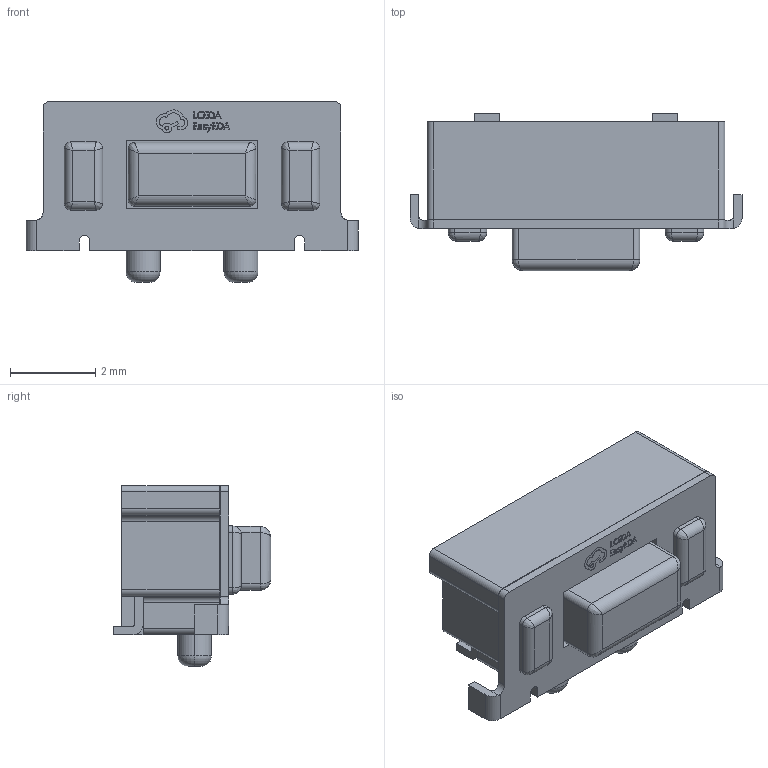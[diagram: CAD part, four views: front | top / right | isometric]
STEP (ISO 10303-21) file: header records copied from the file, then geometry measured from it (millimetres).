
FILE_DESCRIPTION (( 'STEP AP214' ), '1' );
FILE_NAME ('KEY-SMD_L7.6-W3.5-H3.5-P4.2.step', '2022-07-02T15:25:44', ( '' ), ( '' ), 'SwSTEP 2.0', 'SolidWorks 2020', '' );
FILE_SCHEMA (( 'AUTOMOTIVE_DESIGN' ));
Length unit declared in the file: millimetre
Products named in the file (1): KEY-SMD_L7.6-W3.5-H3.5-P4.2
Bounding box: 7.8 x 3.7 x 4.25 mm (x, y, z)
Volume: 57.9 mm3; surface area: 156.9 mm2
Topology: 2 solids, 2 shells, 439 faces, 1169 edges, 756 vertices
Faces by surface type: plane 249, bspline 124, cylinder 62, torus 4
Entity records: 19128 total; most frequent: CARTESIAN_POINT 4841, ORIENTED_EDGE 2314, DIRECTION 1641, EDGE_CURVE 1157, LINE 793, VECTOR 793, VERTEX_POINT 756, EDGE_LOOP 475
